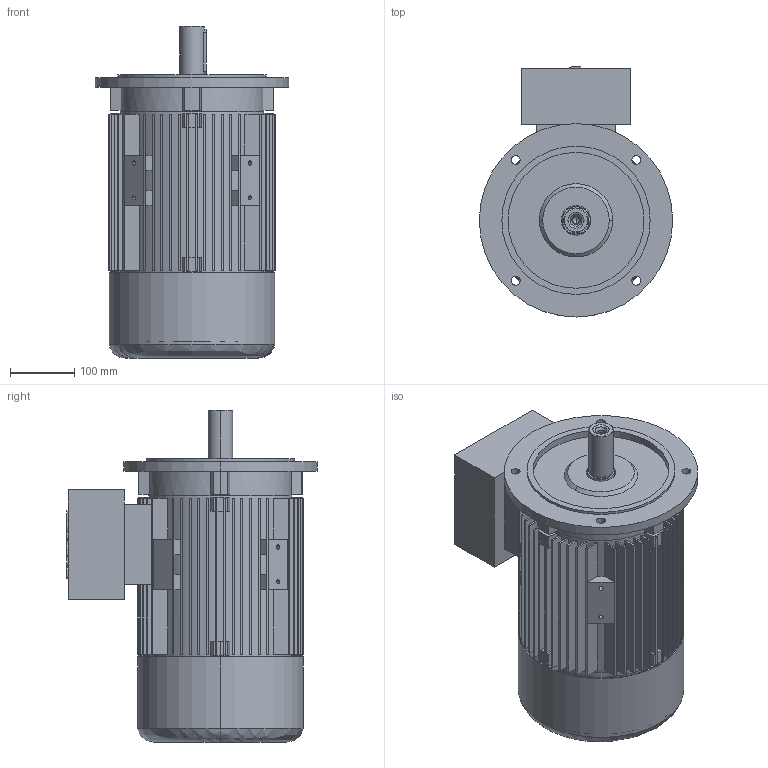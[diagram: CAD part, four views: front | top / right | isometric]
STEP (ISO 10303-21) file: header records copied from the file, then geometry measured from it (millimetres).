
FILE_DESCRIPTION (( 'STEP AP214' ), '1' );
FILE_NAME ('20.18367-B 7AZ 132S&M B5 STANDK.STEP', '2018-05-07T12:00:28', ( '' ), ( '' ), 'SwSTEP 2.0', 'SolidWorks 2017', '' );
FILE_SCHEMA (( 'AUTOMOTIVE_DESIGN' ));
Length unit declared in the file: millimetre
Products named in the file (1): 20.18367-B 7AZ 132S&M B5 STANDK
Bounding box: 300 x 388 x 515 mm (x, y, z)
Volume: 8285223.6 mm3; surface area: 1644690.4 mm2
Topology: 7 solids, 7 shells, 648 faces, 1740 edges, 1147 vertices
Faces by surface type: plane 448, cylinder 161, cone 26, bspline 13
Entity records: 21001 total; most frequent: CARTESIAN_POINT 4283, DIRECTION 3514, ORIENTED_EDGE 3460, EDGE_CURVE 1730, AXIS2_PLACEMENT_3D 1182, VECTOR 1150, LINE 1150, VERTEX_POINT 1147
